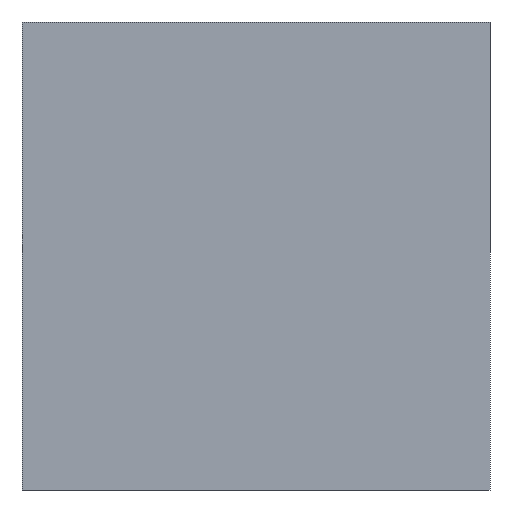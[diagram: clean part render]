
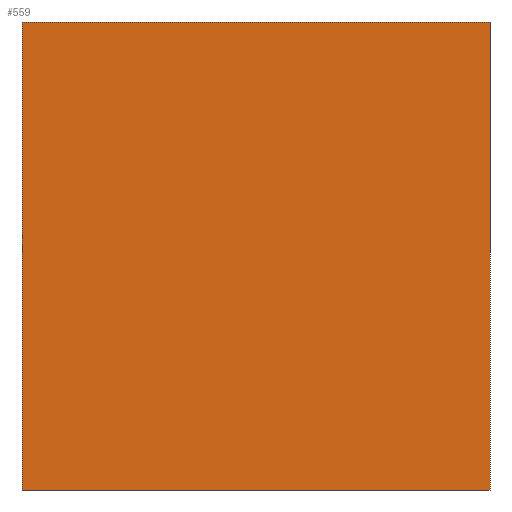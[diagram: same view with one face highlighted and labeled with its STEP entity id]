
A CAD part, front view. The second image highlights one B-rep face of the part: STEP entity #559.
In plain terms, the highlighted planar face has unit normal (0, -1, 0).
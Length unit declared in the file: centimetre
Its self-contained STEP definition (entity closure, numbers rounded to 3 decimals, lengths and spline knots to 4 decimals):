
#6 = VECTOR ( 'NONE', #721, 100. ) ;
#7 = CARTESIAN_POINT ( 'NONE',  ( 0., 0., 0. ) ) ;
#53 = LINE ( 'NONE', #1163, #855 ) ;
#73 = VERTEX_POINT ( 'NONE', #886 ) ;
#86 = AXIS2_PLACEMENT_3D ( 'NONE', #1113, #292, #556 ) ;
#98 = EDGE_CURVE ( 'NONE', #73, #138, #557, .T. ) ;
#138 = VERTEX_POINT ( 'NONE', #741 ) ;
#153 = CARTESIAN_POINT ( 'NONE',  ( 0., 0., 1000. ) ) ;
#160 = LINE ( 'NONE', #153, #6 ) ;
#199 = DIRECTION ( 'NONE',  ( 0., 0., -1. ) ) ;
#288 = DIRECTION ( 'NONE',  ( 1., 0., 0. ) ) ;
#292 = DIRECTION ( 'NONE',  ( 0., 1., 0. ) ) ;
#366 = CARTESIAN_POINT ( 'NONE',  ( 0., 0., 1000. ) ) ;
#435 = EDGE_LOOP ( 'NONE', ( #902, #1087, #586, #1059 ) ) ;
#441 = EDGE_CURVE ( 'NONE', #970, #584, #160, .T. ) ;
#458 = EDGE_CURVE ( 'NONE', #970, #73, #53, .T. ) ;
#551 = CARTESIAN_POINT ( 'NONE',  ( 1000., 0., 1000. ) ) ;
#556 = DIRECTION ( 'NONE',  ( 0., 0., 1. ) ) ;
#557 = LINE ( 'NONE', #551, #852 ) ;
#559 = ADVANCED_FACE ( 'NONE', ( #1031 ), #1129, .F. ) ;
#584 = VERTEX_POINT ( 'NONE', #7 ) ;
#586 = ORIENTED_EDGE ( 'NONE', *, *, #458, .F. ) ;
#668 = LINE ( 'NONE', #1127, #733 ) ;
#721 = DIRECTION ( 'NONE',  ( 0., 0., -1. ) ) ;
#733 = VECTOR ( 'NONE', #288, 100. ) ;
#741 = CARTESIAN_POINT ( 'NONE',  ( 1000., 0., 0. ) ) ;
#852 = VECTOR ( 'NONE', #199, 100. ) ;
#855 = VECTOR ( 'NONE', #1170, 100. ) ;
#886 = CARTESIAN_POINT ( 'NONE',  ( 1000., 0., 1000. ) ) ;
#902 = ORIENTED_EDGE ( 'NONE', *, *, #1036, .T. ) ;
#970 = VERTEX_POINT ( 'NONE', #366 ) ;
#1031 = FACE_OUTER_BOUND ( 'NONE', #435, .T. ) ;
#1036 = EDGE_CURVE ( 'NONE', #584, #138, #668, .T. ) ;
#1059 = ORIENTED_EDGE ( 'NONE', *, *, #441, .T. ) ;
#1087 = ORIENTED_EDGE ( 'NONE', *, *, #98, .F. ) ;
#1113 = CARTESIAN_POINT ( 'NONE',  ( 0., 0., 1000. ) ) ;
#1127 = CARTESIAN_POINT ( 'NONE',  ( 0., 0., 0. ) ) ;
#1129 = PLANE ( 'NONE',  #86 ) ;
#1163 = CARTESIAN_POINT ( 'NONE',  ( 0., 0., 1000. ) ) ;
#1170 = DIRECTION ( 'NONE',  ( 1., 0., 0. ) ) ;
